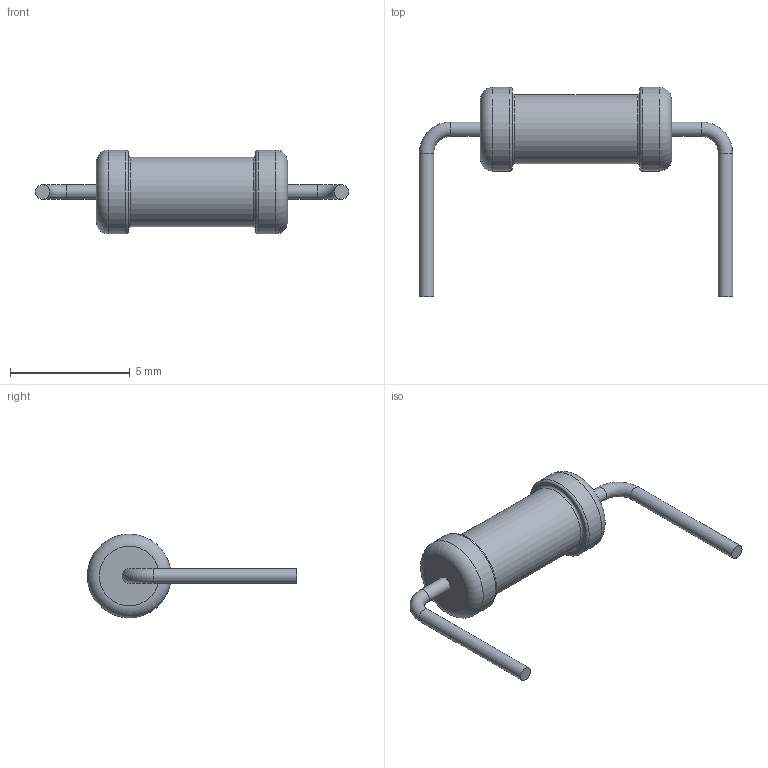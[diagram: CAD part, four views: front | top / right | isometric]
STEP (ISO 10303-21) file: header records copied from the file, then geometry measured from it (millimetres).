
FILE_DESCRIPTION(('STEP AP203'), '1');
FILE_NAME('ﾑ2-29ﾂﾌ-0,25(1)', '', ('UNSPECIFIED'), ('UNSPECIFIED'), 'ASCON STEP Converter 1.6', 'ASCON Math Kernel', '');
FILE_SCHEMA(('CONFIG_CONTROL_DESIGN'));
Length unit declared in the file: millimetre
Bounding box: 13.1 x 8.75 x 3.5 mm (x, y, z)
Volume: 64.6 mm3; surface area: 129.7 mm2
Topology: 1 solids, 1 shells, 21 faces, 35 edges, 20 vertices
Faces by surface type: torus 8, cylinder 7, plane 6
Full cylindrical faces by diameter (mm): 0.6 x4, 2.893 x1, 3.5 x2
Entity records: 626 total; most frequent: DIRECTION 84, CARTESIAN_POINT 62, AXIS2_PLACEMENT_3D 42, EDGE_LOOP 40, ORIENTED_EDGE 40, FACE_OUTER_BOUND 30, COLOUR_RGB 22, FILL_AREA_STYLE_COLOUR 22
